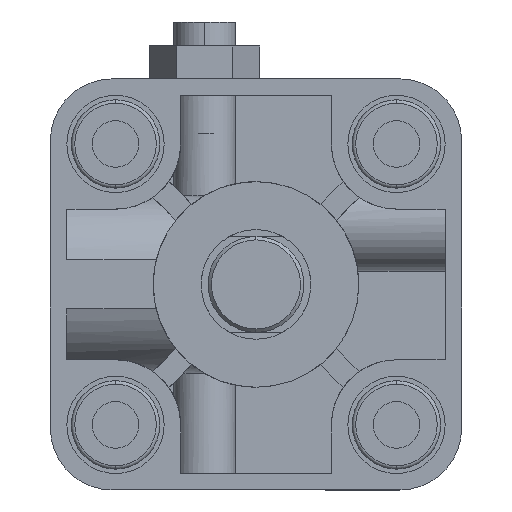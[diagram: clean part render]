
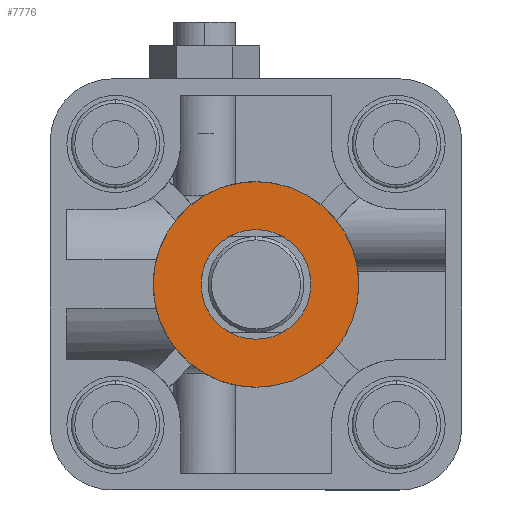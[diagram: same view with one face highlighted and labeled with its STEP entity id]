
A CAD part, left-side view. The second image highlights one B-rep face of the part: STEP entity #7776.
In plain terms, the highlighted planar face has unit normal (-1, 0, 0) as drawn and (1, 0, 0) by its records, which use the part's own axes.
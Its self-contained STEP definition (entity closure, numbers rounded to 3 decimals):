
#461 = DIRECTION ( 'NONE',  ( 0., 0., 1. ) ) ;
#489 = CARTESIAN_POINT ( 'NONE',  ( 24.5, 0., -8. ) ) ;
#579 = PLANE ( 'NONE',  #1509 ) ;
#804 = CIRCLE ( 'NONE', #9164, 8. ) ;
#1139 = EDGE_LOOP ( 'NONE', ( #4063, #6297 ) ) ;
#1509 = AXIS2_PLACEMENT_3D ( 'NONE', #6140, #9415, #7098 ) ;
#1632 = DIRECTION ( 'NONE',  ( 0., 0., 1. ) ) ;
#1721 = DIRECTION ( 'NONE',  ( -1., 0., 0. ) ) ;
#1726 = DIRECTION ( 'NONE',  ( -1., 0., 0. ) ) ;
#1889 = CARTESIAN_POINT ( 'NONE',  ( 24.5, 0., 0. ) ) ;
#2152 = EDGE_CURVE ( 'NONE', #3374, #3704, #7597, .T. ) ;
#2618 = ORIENTED_EDGE ( 'NONE', *, *, #3631, .F. ) ;
#2866 = DIRECTION ( 'NONE',  ( -1., 0., 0. ) ) ;
#2897 = CARTESIAN_POINT ( 'NONE',  ( 24.5, 0., 0. ) ) ;
#3016 = CARTESIAN_POINT ( 'NONE',  ( 24.5, 0., 0. ) ) ;
#3374 = VERTEX_POINT ( 'NONE', #489 ) ;
#3631 = EDGE_CURVE ( 'NONE', #9287, #6484, #7330, .T. ) ;
#3647 = CIRCLE ( 'NONE', #6141, 15. ) ;
#3704 = VERTEX_POINT ( 'NONE', #4899 ) ;
#3897 = FACE_BOUND ( 'NONE', #1139, .T. ) ;
#4063 = ORIENTED_EDGE ( 'NONE', *, *, #5170, .T. ) ;
#4899 = CARTESIAN_POINT ( 'NONE',  ( 24.5, 0., 8. ) ) ;
#5170 = EDGE_CURVE ( 'NONE', #3704, #3374, #804, .T. ) ;
#5826 = AXIS2_PLACEMENT_3D ( 'NONE', #6789, #1721, #8968 ) ;
#6140 = CARTESIAN_POINT ( 'NONE',  ( 24.5, 8., 0. ) ) ;
#6141 = AXIS2_PLACEMENT_3D ( 'NONE', #2897, #9339, #1632 ) ;
#6297 = ORIENTED_EDGE ( 'NONE', *, *, #2152, .T. ) ;
#6484 = VERTEX_POINT ( 'NONE', #9627 ) ;
#6782 = EDGE_CURVE ( 'NONE', #6484, #9287, #3647, .T. ) ;
#6789 = CARTESIAN_POINT ( 'NONE',  ( 24.5, 0., 0. ) ) ;
#6953 = DIRECTION ( 'NONE',  ( 0., 0., 1. ) ) ;
#7098 = DIRECTION ( 'NONE',  ( 0., 0., 1. ) ) ;
#7330 = CIRCLE ( 'NONE', #7854, 15. ) ;
#7597 = CIRCLE ( 'NONE', #5826, 8. ) ;
#7776 = ADVANCED_FACE ( 'NONE', ( #8047, #3897 ), #579, .F. ) ;
#7854 = AXIS2_PLACEMENT_3D ( 'NONE', #1889, #1726, #6953 ) ;
#8047 = FACE_OUTER_BOUND ( 'NONE', #8827, .T. ) ;
#8827 = EDGE_LOOP ( 'NONE', ( #2618, #8910 ) ) ;
#8910 = ORIENTED_EDGE ( 'NONE', *, *, #6782, .F. ) ;
#8968 = DIRECTION ( 'NONE',  ( 0., 0., 1. ) ) ;
#9164 = AXIS2_PLACEMENT_3D ( 'NONE', #3016, #2866, #461 ) ;
#9287 = VERTEX_POINT ( 'NONE', #9643 ) ;
#9339 = DIRECTION ( 'NONE',  ( -1., 0., 0. ) ) ;
#9415 = DIRECTION ( 'NONE',  ( -1., 0., 0. ) ) ;
#9627 = CARTESIAN_POINT ( 'NONE',  ( 24.5, 0., -15. ) ) ;
#9643 = CARTESIAN_POINT ( 'NONE',  ( 24.5, 0., 15. ) ) ;
